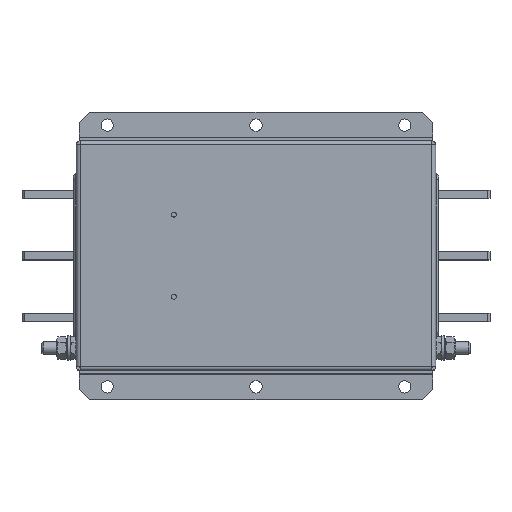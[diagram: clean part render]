
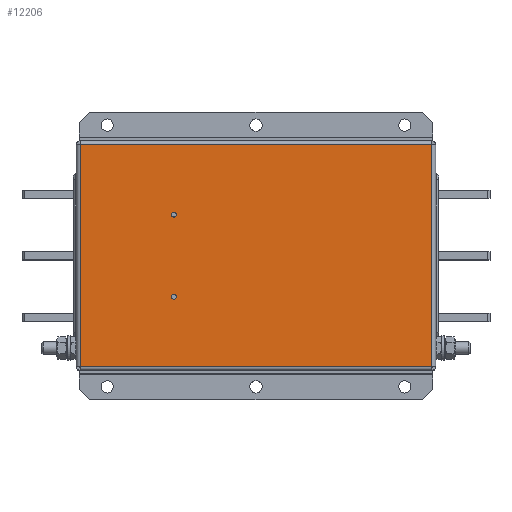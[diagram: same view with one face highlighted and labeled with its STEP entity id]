
A CAD part, top view. The second image highlights one B-rep face of the part: STEP entity #12206.
In plain terms, the highlighted planar face has unit normal (0, 0, 1).
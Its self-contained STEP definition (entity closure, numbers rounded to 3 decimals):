
#8302=CARTESIAN_POINT('',(-77.59,40.0,170.));
#8303=VERTEX_POINT('',#8302);
#8304=CARTESIAN_POINT('',(-80.0,40.0,170.));
#8305=DIRECTION('',(0.0,0.0,-1.0));
#8306=DIRECTION('',(1.0,0.0,0.0));
#8307=AXIS2_PLACEMENT_3D('',#8304,#8305,#8306);
#8308=CIRCLE('',#8307,2.41);
#8309=EDGE_CURVE('',#8303,#8303,#8308,.T.);
#8339=CARTESIAN_POINT('',(-77.59,-40.0,170.));
#8340=VERTEX_POINT('',#8339);
#8341=CARTESIAN_POINT('',(-80.0,-40.0,170.));
#8342=DIRECTION('',(0.0,0.0,-1.0));
#8343=DIRECTION('',(1.0,0.0,0.0));
#8344=AXIS2_PLACEMENT_3D('',#8341,#8342,#8343);
#8345=CIRCLE('',#8344,2.41);
#8346=EDGE_CURVE('',#8340,#8340,#8345,.T.);
#10083=CARTESIAN_POINT('',(171.2,-108.2,170.));
#10084=VERTEX_POINT('',#10083);
#10605=CARTESIAN_POINT('',(-171.2,-108.2,170.));
#10606=VERTEX_POINT('',#10605);
#10679=CARTESIAN_POINT('',(171.2,-108.2,170.));
#10680=DIRECTION('',(-1.0,0.0,0.0));
#10681=VECTOR('',#10680,342.4);
#10682=LINE('',#10679,#10681);
#10683=EDGE_CURVE('',#10084,#10606,#10682,.T.);
#11198=CARTESIAN_POINT('',(171.2,108.2,170.));
#11199=VERTEX_POINT('',#11198);
#11469=CARTESIAN_POINT('',(171.2,108.2,170.));
#11470=DIRECTION('',(0.0,-1.0,0.0));
#11471=VECTOR('',#11470,216.4);
#11472=LINE('',#11469,#11471);
#11473=EDGE_CURVE('',#11199,#10084,#11472,.T.);
#11894=CARTESIAN_POINT('',(-171.2,108.2,170.));
#11895=VERTEX_POINT('',#11894);
#11930=CARTESIAN_POINT('',(171.2,108.2,170.));
#11931=DIRECTION('',(-1.0,0.0,0.0));
#11932=VECTOR('',#11931,342.4);
#11933=LINE('',#11930,#11932);
#11934=EDGE_CURVE('',#11199,#11895,#11933,.T.);
#12184=CARTESIAN_POINT('',(0.0,0.0,170.));
#12185=DIRECTION('',(0.0,0.0,1.0));
#12186=DIRECTION('',(1.0,0.0,0.0));
#12187=AXIS2_PLACEMENT_3D('',#12184,#12185,#12186);
#12188=PLANE('',#12187);
#12189=ORIENTED_EDGE('',*,*,#11934,.T.);
#12190=CARTESIAN_POINT('',(-171.2,-108.2,170.));
#12191=DIRECTION('',(0.0,1.0,0.0));
#12192=VECTOR('',#12191,216.4);
#12193=LINE('',#12190,#12192);
#12194=EDGE_CURVE('',#10606,#11895,#12193,.T.);
#12195=ORIENTED_EDGE('',*,*,#12194,.F.);
#12196=ORIENTED_EDGE('',*,*,#10683,.F.);
#12197=ORIENTED_EDGE('',*,*,#11473,.F.);
#12198=EDGE_LOOP('',(#12189,#12195,#12196,#12197));
#12199=FACE_OUTER_BOUND('',#12198,.T.);
#12200=ORIENTED_EDGE('',*,*,#8309,.T.);
#12201=EDGE_LOOP('',(#12200));
#12202=FACE_BOUND('',#12201,.T.);
#12203=ORIENTED_EDGE('',*,*,#8346,.T.);
#12204=EDGE_LOOP('',(#12203));
#12205=FACE_BOUND('',#12204,.T.);
#12206=ADVANCED_FACE('',(#12199,#12202,#12205),#12188,.T.);
